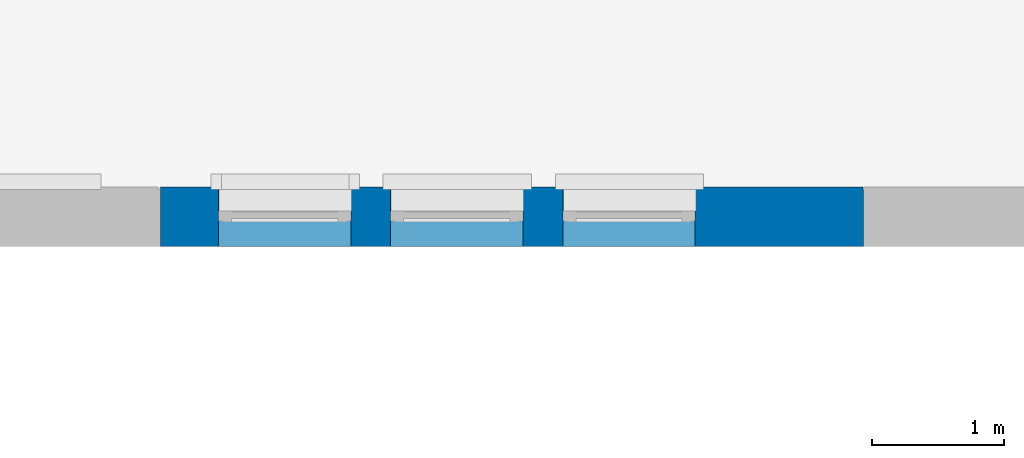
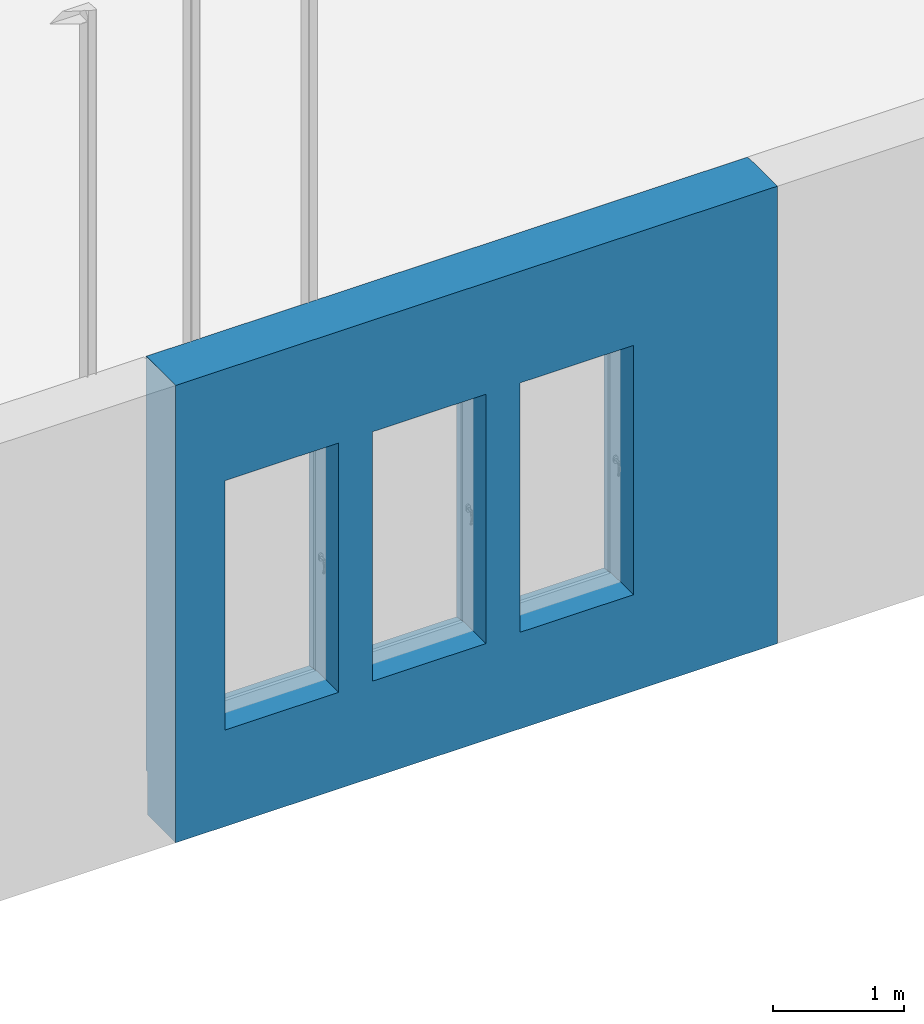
# One storey, part 32 of 77: 1 wall, 6 openings.
"""IFC2X3 building model written with IfcOpenShell, lengths in millimetres."""

import ifcopenshell
import ifcopenshell.guid

model = None  # the IFC model being written
_history = None  # IfcOwnerHistory: only IFC2X3 demands one
_inside = {}  # id of a spatial element -> (the spatial element, [elements in it])
_under = {}  # id of a project, library or spatial element -> (it, [spatial elements below it])
_declared = {}  # id of a project -> (the project, [libraries it declares])
_typed = {}  # id of a type object -> (the type object, [elements of that type])
_made_of = {}  # id of a material, layer set ... -> (it, [elements and type objects made of it])


def new_model(schema):
    """Start an empty IFC model of exactly this schema.

    Asked for "IFC4X3", IfcOpenShell would pick the latest addendum, in which some entities
    have other attributes; the version numbers below select the first issue.
    IFC2X3 requires an IfcOwnerHistory on every rooted entity: one is made here for all.
    """
    global model, _history
    if schema == "IFC4X3":
        model = ifcopenshell.file(schema_version=(4, 3, 0, 0))
    else:
        model = ifcopenshell.file(schema=schema)
    _inside.clear()
    _under.clear()
    _declared.clear()
    _typed.clear()
    _made_of.clear()
    _history = None
    if model.schema == "IFC2X3":
        org = make("IfcOrganization", Name="unknown")
        user = make(
            "IfcPersonAndOrganization",
            ThePerson=make("IfcPerson", FamilyName="unknown"),
            TheOrganization=org,
        )
        app = make(
            "IfcApplication",
            ApplicationDeveloper=org,
            Version="unknown",
            ApplicationFullName="unknown",
            ApplicationIdentifier="unknown",
        )
        _history = make(
            "IfcOwnerHistory",
            OwningUser=user,
            OwningApplication=app,
            ChangeAction="ADDED",
            CreationDate=0,
        )
    return model


def make(cls, **values):
    """One entity of the class cls with the attributes given. An attribute that is None is left unset."""
    return model.create_entity(
        cls, **{name: value for name, value in values.items() if value is not None}
    )


def entity(cls, *values):
    """Any entity or typed value of the class cls, its attributes in the order of the schema. None: left unset."""
    e = model.create_entity(cls)
    for i, value in enumerate(values):
        if value is not None:
            e[i] = value
    return e


def rooted(cls, **values):
    """An entity with a GlobalId (a new one), such as an element, a storey or a relation."""
    return make(cls, GlobalId=ifcopenshell.guid.new(), OwnerHistory=_history, **values)


def si_unit(unit_type, name, prefix=None):
    """IfcSIUnit, for example si_unit("LENGTHUNIT", "METRE", prefix="MILLI")."""
    return make("IfcSIUnit", UnitType=unit_type, Prefix=prefix, Name=name)


def converted_unit(unit_type, name, factor, base, dimensions=None, offset=None):
    """IfcConversionBasedUnit, such as the inch: factor (a typed value) times the base unit."""
    return make(
        "IfcConversionBasedUnit"
        if offset is None
        else "IfcConversionBasedUnitWithOffset",
        ConversionOffset=offset,
        Dimensions=None
        if dimensions is None
        else entity("IfcDimensionalExponents", *dimensions),
        UnitType=unit_type,
        Name=name,
        ConversionFactor=make(
            "IfcMeasureWithUnit", ValueComponent=factor, UnitComponent=base
        ),
    )


def derived_unit(unit_type, elements):
    """IfcDerivedUnit: a product of units, each with its exponent."""
    return make(
        "IfcDerivedUnit",
        Elements=[
            make("IfcDerivedUnitElement", Unit=unit, Exponent=power)
            for unit, power in elements
        ],
        UnitType=unit_type,
    )


def assignment(units):
    """IfcUnitAssignment: the units of a project."""
    return None if units is None else make("IfcUnitAssignment", Units=units)


def point(xyz):
    """IfcCartesianPoint."""
    return None if xyz is None else make("IfcCartesianPoint", Coordinates=xyz)


def direction(xyz):
    """IfcDirection."""
    return None if xyz is None else make("IfcDirection", DirectionRatios=xyz)


def frame(location, z_axis=None, x_axis=None):
    """IfcAxis2Placement3D, a coordinate frame: its origin and axes. An axis left out is left unset."""
    return make(
        "IfcAxis2Placement3D",
        Location=point(location),
        Axis=direction(z_axis),
        RefDirection=direction(x_axis),
    )


def frame_2d(location, x_axis=None):
    """IfcAxis2Placement2D, a coordinate frame in the plane: its origin and x axis."""
    return make(
        "IfcAxis2Placement2D", Location=point(location), RefDirection=direction(x_axis)
    )


def origin():
    """The frame at (0, 0, 0) with its axes left unset."""
    return frame((0.0, 0.0, 0.0))


def place(relative_to, where):
    """IfcLocalPlacement: puts the frame where relative to a parent placement (None: the world)."""
    return make(
        "IfcLocalPlacement", PlacementRelTo=relative_to, RelativePlacement=where
    )


def context(
    kind, dimensions, precision=None, world=None, true_north=None, identifier=None
):
    """IfcGeometricRepresentationContext, for example the 3D "Model" context."""
    return make(
        "IfcGeometricRepresentationContext",
        ContextIdentifier=identifier,
        ContextType=kind,
        CoordinateSpaceDimension=dimensions,
        Precision=precision,
        WorldCoordinateSystem=world,
        TrueNorth=true_north,
    )


def subcontext(parent, identifier, kind, view, scale=None):
    """IfcGeometricRepresentationSubContext, for example "Body" below "Model"."""
    return make(
        "IfcGeometricRepresentationSubContext",
        ContextIdentifier=identifier,
        ContextType=kind,
        ParentContext=parent,
        TargetScale=scale,
        TargetView=view,
    )


def project(units=None, contexts=None):
    """IfcProject with its units and contexts."""
    return rooted(
        "IfcProject",
        Name="project",
        RepresentationContexts=contexts,
        UnitsInContext=assignment(units),
    )


def spatial(cls, under=None, at=None, **own):
    """A site, building, storey or space (cls), placed at a placement, below another one or the project."""
    s = rooted(cls, ObjectPlacement=at, **own)
    if under is not None:
        _under.setdefault(under.id(), (under, []))[1].append(s)
    return s


def profile(cls, at=None, kind="AREA", **sizes):
    """A parametric profile (cls). Its sizes go by their IFC names, for example OverallWidth=200.0."""
    return make(cls, ProfileType=kind, Position=at, **sizes)


def rectangle(**sizes):
    """IfcRectangleProfileDef."""
    return profile("IfcRectangleProfileDef", **sizes)


def extrude(swept, where, along, depth):
    """IfcExtrudedAreaSolid: the profile swept, set in the frame where, extruded along a direction by depth."""
    return make(
        "IfcExtrudedAreaSolid",
        SweptArea=swept,
        Position=where,
        ExtrudedDirection=direction(along),
        Depth=depth,
    )


def faces_of(points, faces, orient=None, outer=None):
    """IfcFace entities. A face is a list of loops; a loop is a list of indices into points, from 0.

    orient and outer hold one flag for each loop. By default every Orientation is true, the
    first loop of a face is its IfcFaceOuterBound and the others are IfcFaceBound.
    """
    made = []
    for i, loops in enumerate(faces):
        bounds = []
        for j, loop in enumerate(loops):
            is_outer = j == 0 if outer is None else outer[i][j]
            bounds.append(
                make(
                    "IfcFaceOuterBound" if is_outer else "IfcFaceBound",
                    Bound=make("IfcPolyLoop", Polygon=[points[k] for k in loop]),
                    Orientation=True if orient is None else orient[i][j],
                )
            )
        made.append(make("IfcFace", Bounds=bounds))
    return made


def faceted_brep(points, faces, orient=None, outer=None, voids=None):
    """IfcFacetedBrep: a solid bounded by flat faces; with voids (closed shells), ...WithVoids."""
    shared = [point(p) for p in points]
    hull = make("IfcClosedShell", CfsFaces=faces_of(shared, faces, orient, outer))
    if voids is None:
        return make("IfcFacetedBrep", Outer=hull)
    return make(
        "IfcFacetedBrepWithVoids",
        Outer=hull,
        Voids=[
            make(cls, CfsFaces=faces_of(shared, fs, o, b)) for cls, fs, o, b in voids
        ],
    )


def shape(context_of_items, identifier, shape_type, items):
    """IfcShapeRepresentation: the items that make up one representation, for example the "Body"."""
    return make(
        "IfcShapeRepresentation",
        ContextOfItems=context_of_items,
        RepresentationIdentifier=identifier,
        RepresentationType=shape_type,
        Items=items,
    )


def material(Name=None, Category=None):
    """IfcMaterial."""
    return make("IfcMaterial", Name=Name, Category=Category)


def layer(
    of_material, thickness, ventilated=None, Name=None, Category=None, Priority=None
):
    """IfcMaterialLayer: one layer of a wall or slab, of a material (None: an air gap)."""
    return make(
        "IfcMaterialLayer",
        Material=of_material,
        LayerThickness=thickness,
        IsVentilated=ventilated,
        Name=Name,
        Category=Category,
        Priority=Priority,
    )


def layer_set(layers, Name=None):
    """IfcMaterialLayerSet."""
    return make("IfcMaterialLayerSet", MaterialLayers=layers, LayerSetName=Name)


def layer_usage(for_layer_set, set_direction, sense, offset, extent=None):
    """IfcMaterialLayerSetUsage: how a layer set lies in its element."""
    return make(
        "IfcMaterialLayerSetUsage",
        ForLayerSet=for_layer_set,
        LayerSetDirection=set_direction,
        DirectionSense=sense,
        OffsetFromReferenceLine=offset,
        ReferenceExtent=extent,
    )


def made_of(thing, what):
    """Note that an element or type object is made of a material, layer set ...; save() writes the relation."""
    if what is not None:
        _made_of.setdefault(what.id(), (what, []))[1].append(thing)
    return thing


def type_object(cls, material=None, **own):
    """A type object (cls), such as IfcWallType, which elements share."""
    return made_of(rooted(cls, **own), material)


def element(
    cls,
    number,
    at=None,
    inside=None,
    cuts=None,
    type_object=None,
    material=None,
    context=None,
    identifier="Body",
    shape_type=None,
    held_by="IfcProductDefinitionShape",
    body=None,
    shapes=None,
    **own,
):
    """One element of the class cls, such as IfcWall. Its Tag is "e" and its number.

    at: its placement. inside: the storey or other place that contains it. cuts: it is an
    opening in that element (IfcRelVoidsElement). A single representation is given by context,
    identifier, shape_type and body (its items); several are given by shapes. held_by: the class
    of the entity that holds the representations. save() writes the other relations.
    """
    e = rooted(cls, Tag="e%d" % number, ObjectPlacement=at, **own)
    if body is not None:
        shapes = [shape(context, identifier, shape_type, body)]
    if shapes is not None:
        e.Representation = make(held_by, Representations=shapes)
    if inside is not None:
        _inside.setdefault(inside.id(), (inside, []))[1].append(e)
    if cuts is not None:
        rooted(
            "IfcRelVoidsElement", RelatingBuildingElement=cuts, RelatedOpeningElement=e
        )
    if type_object is not None:
        _typed.setdefault(type_object.id(), (type_object, []))[1].append(e)
    return made_of(e, material)


def aggregate(whole, parts):
    """IfcRelAggregates: a whole, such as a stair, and the parts it consists of."""
    return rooted("IfcRelAggregates", RelatingObject=whole, RelatedObjects=parts)


def save(model, path):
    """Write the relations noted so far, then the file.

    IfcRelAggregates (storeys below a building ...), IfcRelContainedInSpatialStructure (elements
    in a storey), IfcRelDefinesByType, IfcRelAssociatesMaterial and IfcRelDeclares: one each for
    every whole, place, type object, material and project.
    """
    for whole, parts in _under.values():
        aggregate(whole, parts)
    for where, things in _inside.values():
        rooted(
            "IfcRelContainedInSpatialStructure",
            RelatedElements=things,
            RelatingStructure=where,
        )
    for kind, things in _typed.values():
        rooted("IfcRelDefinesByType", RelatedObjects=things, RelatingType=kind)
    for what, things in _made_of.values():
        rooted("IfcRelAssociatesMaterial", RelatedObjects=things, RelatingMaterial=what)
    for by, libraries in _declared.values():
        rooted("IfcRelDeclares", RelatingContext=by, RelatedDefinitions=libraries)
    model.write(path)


model = new_model("IFC2X3")

# Units and contexts
model_context = context("Model", 3, precision=0.01, world=origin(), true_north=direction((6.12303176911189e-17, 1.0)))
body_context = subcontext(model_context, "Body", "Model", "MODEL_VIEW")
ifc_project = project(units=[si_unit("LENGTHUNIT", "METRE", prefix="MILLI"), si_unit("AREAUNIT", "SQUARE_METRE"), si_unit("VOLUMEUNIT", "CUBIC_METRE"), converted_unit("PLANEANGLEUNIT", "DEGREE", entity("IfcRatioMeasure", 0.0174532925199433), si_unit("PLANEANGLEUNIT", "RADIAN"), dimensions=[0, 0, 0, 0, 0, 0, 0]), si_unit("MASSUNIT", "GRAM", prefix="KILO"), derived_unit("MASSDENSITYUNIT", [(si_unit("MASSUNIT", "GRAM", prefix="KILO"), 1), (si_unit("LENGTHUNIT", "METRE"), -3)]), si_unit("TIMEUNIT", "SECOND"), si_unit("FREQUENCYUNIT", "HERTZ"), si_unit("THERMODYNAMICTEMPERATUREUNIT", "DEGREE_CELSIUS"), derived_unit("THERMALTRANSMITTANCEUNIT", [(si_unit("MASSUNIT", "GRAM", prefix="KILO"), 1), (si_unit("THERMODYNAMICTEMPERATUREUNIT", "KELVIN"), -1), (si_unit("TIMEUNIT", "SECOND"), -3)]), derived_unit("VOLUMETRICFLOWRATEUNIT", [(si_unit("LENGTHUNIT", "METRE"), 3), (si_unit("TIMEUNIT", "SECOND"), -1)]), si_unit("ELECTRICCURRENTUNIT", "AMPERE"), si_unit("ELECTRICVOLTAGEUNIT", "VOLT"), si_unit("POWERUNIT", "WATT"), si_unit("FORCEUNIT", "NEWTON", prefix="KILO"), si_unit("ILLUMINANCEUNIT", "LUX"), si_unit("LUMINOUSFLUXUNIT", "LUMEN"), si_unit("LUMINOUSINTENSITYUNIT", "CANDELA"), derived_unit("USERDEFINED", [(si_unit("MASSUNIT", "GRAM", prefix="KILO"), -1), (si_unit("LENGTHUNIT", "METRE"), -2), (si_unit("TIMEUNIT", "SECOND"), 3), (si_unit("LUMINOUSFLUXUNIT", "LUMEN"), 1)]), derived_unit("LINEARVELOCITYUNIT", [(si_unit("LENGTHUNIT", "METRE"), 1), (si_unit("TIMEUNIT", "SECOND"), -1)]), si_unit("PRESSUREUNIT", "PASCAL"), derived_unit("USERDEFINED", [(si_unit("LENGTHUNIT", "METRE"), -2), (si_unit("MASSUNIT", "GRAM", prefix="KILO"), 1), (si_unit("TIMEUNIT", "SECOND"), -2)])], contexts=[model_context])

# Site, building, storey
site_placement = place(None, origin())
site = spatial("IfcSite", under=ifc_project, at=site_placement, Name="Default", CompositionType="ELEMENT")
building_placement = place(site_placement, origin())
building = spatial("IfcBuilding", under=site, at=building_placement, CompositionType="ELEMENT")
storey_placement = place(building_placement, origin())
storey = spatial("IfcBuildingStorey", under=building, at=storey_placement, Name="1. KORRUS", CompositionType="ELEMENT", Elevation=0.0)

# Wall, openings
ifc_material_1 = material(Name="RECKLI 1 173 THUR by Polantis 2016-toon1")
ifc_layer_1 = layer(ifc_material_1, 100.0)
ifc_material_2 = material(Name="Soojusisolatsioon EPS")
ifc_layer_2 = layer(ifc_material_2, 200.0)
ifc_material_3 = material(Name="r/b")
ifc_layer_3 = layer(ifc_material_3, 150.0)
ifc_layer_set = layer_set([ifc_layer_1, ifc_layer_2, ifc_layer_3], Name="Basic Wall:VS-1_toon-d")
ifc_layer_usage = layer_usage(ifc_layer_set, "AXIS2", "NEGATIVE", 225.0)
wall_type = type_object("IfcWallType", Name="Basic Wall:VS-1_toon-d", PredefinedType="STANDARD", material=ifc_layer_set)
wall_placement = place(storey_placement, frame((28663.2161487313, 21725.0517807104, -400.0)))
wall = element("IfcWallStandardCase", 1, at=wall_placement, inside=storey, type_object=wall_type, material=ifc_layer_usage, Name="Basic Wall:VS-1_toon-d", ObjectType="Basic Wall:VS-1_toon-d", context=body_context, shape_type="SweptSolid", body=[
    extrude(rectangle(XDim=5306.88742148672, YDim=450.000000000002, at=frame_2d((2653.44371074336, -1.27897692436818e-13), x_axis=(-1.0, 0.0))), origin(), (0.0, 0.0, 1.0), 4265.0),
])
opening_1_placement = place(wall_placement, origin())
element("IfcOpeningElement", 2, at=opening_1_placement, cuts=wall, Name="Basic Wall:VS-1_toon-d", ObjectType="Recess", context=body_context, shape_type="SweptSolid", body=[
    extrude(rectangle(XDim=4265.0, YDim=16.0000000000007, at=frame_2d((0.0, 2.16626716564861e-12), x_axis=(1.0, 0.0))), frame((5309.78385126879, 205.0, 2132.5), z_axis=(0.0, 1.0, 0.0), x_axis=(0.0, 0.0, 1.0)), (0.0, 0.0, 1.0), 19.9999999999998),
    extrude(rectangle(XDim=4835.0, YDim=16.0000000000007, at=frame_2d((2.27373675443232e-13, 2.16626716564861e-12), x_axis=(1.0, 0.0))), frame((5309.78385126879, 205.0, 6682.5), z_axis=(0.0, 1.0, 0.0), x_axis=(0.0, 0.0, 1.0)), (0.0, 0.0, 1.0), 19.9999999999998),
])
opening_2_placement = place(wall_placement, origin())
element("IfcOpeningElement", 3, at=opening_2_placement, cuts=wall, Name="Basic Wall:VS-1_toon-d", ObjectType="Opening", context=body_context, shape_type="Brep", body=[
    faceted_brep([(-29093.2161487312, 6304.94821928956, 400.0), (-29093.2161487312, 6304.94821928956, 0.0), (-29113.2161487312, 6324.94821928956, 0.0), (-29113.2161487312, 6324.94821928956, 400.0), (-29093.2161487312, 1564.94821928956, 400.0), (-29113.2161487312, 1564.94821928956, 400.0), (-29113.2161487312, 1564.94821928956, 0.0), (-29093.2161487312, 1564.94821928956, 0.0)], [[[0, 1, 2, 3]], [[4, 5, 6, 7]], [[1, 0, 4, 7]], [[2, 1, 7, 6]], [[3, 2, 6, 5]], [[0, 3, 5, 4]]]),
    faceted_brep([(-29093.2161487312, 6304.94821928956, 400.0), (-29113.2161487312, 6324.94821928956, 400.0), (-29113.2161487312, 6324.94821928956, 0.0), (-29093.2161487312, 6304.94821928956, 0.0), (-24753.2161487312, 6304.94821928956, 400.0), (-24753.2161487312, 6304.94821928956, 0.0), (-24753.2161487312, 6324.94821928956, 0.0), (-24753.2161487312, 6324.94821928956, 400.0)], [[[0, 1, 2, 3]], [[4, 5, 6, 7]], [[1, 0, 4, 7]], [[2, 1, 7, 6]], [[3, 2, 6, 5]], [[0, 3, 5, 4]]]),
    faceted_brep([(-19033.2161487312, 6304.94821928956, 400.0), (-19013.2161487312, 6324.94821928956, 400.0), (-19013.2161487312, 6324.94821928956, 0.0), (-19033.2161487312, 6304.94821928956, 0.0), (-19033.2161487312, 205.0, 400.0), (-19033.2161487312, 205.0, 0.0), (-19013.2161487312, 225.0, 0.0), (-19013.2161487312, 225.0, 400.0)], [[[0, 1, 2, 3]], [[4, 5, 6, 7]], [[1, 0, 4, 7]], [[2, 1, 7, 6]], [[3, 2, 6, 5]], [[0, 3, 5, 4]]]),
    faceted_brep([(-14313.2161487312, 205.0, 400.0), (-14313.2161487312, 225.0, 400.0), (-14313.2161487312, 225.0, 0.0), (-14313.2161487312, 205.0, 0.0), (-13783.216148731, 205.0, 400.0), (-13783.216148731, 205.0, 0.0), (-13783.216148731, 225.0, 0.0), (-13783.216148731, 225.0, 400.0)], [[[0, 1, 2, 3]], [[4, 5, 6, 7]], [[1, 0, 4, 7]], [[2, 1, 7, 6]], [[3, 2, 6, 5]], [[0, 3, 5, 4]]]),
    faceted_brep([(11266.7838512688, 205.0, 400.0), (11286.7838512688, 225.0, 400.0), (11286.7838512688, 225.0, 0.0), (11266.7838512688, 205.0, 0.0), (11266.7838512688, -5935.05178071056, 400.0), (11266.7838512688, -5935.05178071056, 0.0), (11286.7838512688, -5935.05178071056, 0.0), (11286.7838512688, -5935.05178071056, 400.0)], [[[0, 1, 2, 3]], [[4, 5, 6, 7]], [[1, 0, 4, 7]], [[2, 1, 7, 6]], [[3, 2, 6, 5]], [[0, 3, 5, 4]]]),
    faceted_brep([(11266.7838512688, -22155.0517807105, 400.0), (11286.7838512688, -22175.0517807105, 400.0), (11286.7838512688, -22175.0517807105, 0.0), (11266.7838512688, -22155.0517807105, 0.0), (6136.78385126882, -22155.0517807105, 400.0), (6136.78385126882, -22155.0517807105, 0.0), (6136.78385126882, -22175.0517807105, 0.0), (6136.78385126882, -22175.0517807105, 400.0)], [[[0, 1, 2, 3]], [[4, 5, 6, 7]], [[1, 0, 4, 7]], [[2, 1, 7, 6]], [[3, 2, 6, 5]], [[0, 3, 5, 4]]]),
    faceted_brep([(-17263.2161487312, -22155.0517807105, 400.0), (-17263.2161487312, -22175.0517807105, 400.0), (-17263.2161487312, -22175.0517807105, 0.0), (-17263.2161487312, -22155.0517807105, 0.0), (-21048.2161487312, -22155.0517807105, 400.0), (-21048.2161487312, -22155.0517807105, 0.0), (-21048.2161487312, -22175.0517807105, 0.0), (-21048.2161487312, -22175.0517807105, 400.0)], [[[0, 1, 2, 3]], [[4, 5, 6, 7]], [[1, 0, 4, 7]], [[2, 1, 7, 6]], [[3, 2, 6, 5]], [[0, 3, 5, 4]]]),
    faceted_brep([(11266.7838512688, -8965.05178071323, 400.0), (11286.7838512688, -8965.05178071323, 400.0), (11286.7838512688, -8965.05178071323, 0.0), (11266.7838512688, -8965.05178071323, 0.0), (11266.7838512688, -13081.7217807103, 400.0), (11266.7838512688, -13081.7217807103, 0.0), (11286.7838512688, -13081.7217807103, 0.0), (11286.7838512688, -13081.7217807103, 400.0)], [[[0, 1, 2, 3]], [[4, 5, 6, 7]], [[1, 0, 4, 7]], [[2, 1, 7, 6]], [[3, 2, 6, 5]], [[0, 3, 5, 4]]]),
    faceted_brep([(2536.78385126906, -22155.0517807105, 400.0), (2536.78385126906, -22175.0517807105, 400.0), (2536.78385126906, -22175.0517807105, 0.0), (2536.78385126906, -22155.0517807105, 0.0), (136.78385126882, -22155.0517807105, 400.0), (136.78385126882, -22155.0517807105, 0.0), (136.783851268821, -22175.0517807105, 0.0), (136.783851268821, -22175.0517807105, 400.0)], [[[0, 1, 2, 3]], [[4, 5, 6, 7]], [[1, 0, 4, 7]], [[2, 1, 7, 6]], [[3, 2, 6, 5]], [[0, 3, 5, 4]]]),
    faceted_brep([(-24873.1853249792, -22155.0517807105, 400.0), (-24873.1853249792, -22175.0517807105, 400.0), (-24873.1853249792, -22175.0517807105, 0.0), (-24873.1853249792, -22155.0517807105, 0.0), (-27358.1853249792, -22155.0517807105, 400.0), (-27358.1853249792, -22155.0517807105, 0.0), (-27358.1853249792, -22175.0517807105, 0.0), (-27358.1853249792, -22175.0517807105, 400.0)], [[[0, 1, 2, 3]], [[4, 5, 6, 7]], [[1, 0, 4, 7]], [[2, 1, 7, 6]], [[3, 2, 6, 5]], [[0, 3, 5, 4]]]),
    faceted_brep([(-12663.216148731, -22155.0517807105, 400.0), (-12663.216148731, -22175.0517807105, 400.0), (-12663.216148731, -22175.0517807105, 0.0), (-12663.216148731, -22155.0517807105, 0.0), (-13663.2161487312, -22155.0517807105, 400.0), (-13663.2161487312, -22155.0517807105, 0.0), (-13663.2161487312, -22175.0517807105, 0.0), (-13663.2161487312, -22175.0517807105, 400.0)], [[[0, 1, 2, 3]], [[4, 5, 6, 7]], [[1, 0, 4, 7]], [[2, 1, 7, 6]], [[3, 2, 6, 5]], [[0, 3, 5, 4]]]),
    faceted_brep([(-8063.18448574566, -22155.0517807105, 400.0), (-8063.18448574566, -22175.0517807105, 400.0), (-8063.18448574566, -22175.0517807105, 0.0), (-8063.18448574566, -22155.0517807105, 0.0), (-9063.21614873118, -22155.0517807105, 400.0), (-9063.21614873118, -22155.0517807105, 0.0), (-9063.21614873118, -22175.0517807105, 0.0), (-9063.21614873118, -22175.0517807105, 400.0)], [[[0, 1, 2, 3]], [[4, 5, 6, 7]], [[1, 0, 4, 7]], [[2, 1, 7, 6]], [[3, 2, 6, 5]], [[0, 3, 5, 4]]]),
    faceted_brep([(-3463.18448574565, -22155.0517807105, 400.0), (-3463.18448574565, -22175.0517807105, 400.0), (-3463.18448574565, -22175.0517807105, 0.0), (-3463.18448574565, -22155.0517807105, 0.0), (-4463.21614873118, -22155.0517807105, 400.0), (-4463.21614873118, -22155.0517807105, 0.0), (-4463.21614873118, -22175.0517807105, 0.0), (-4463.21614873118, -22175.0517807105, 400.0)], [[[0, 1, 2, 3]], [[4, 5, 6, 7]], [[1, 0, 4, 7]], [[2, 1, 7, 6]], [[3, 2, 6, 5]], [[0, 3, 5, 4]]]),
    faceted_brep([(11266.7838512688, -17310.0517807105, 400.0), (11286.7838512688, -17310.0517807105, 400.0), (11286.7838512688, -17310.0517807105, 0.0), (11266.7838512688, -17310.0517807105, 0.0), (11266.7838512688, -22155.0517807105, 400.0), (11266.7838512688, -22155.0517807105, 0.0), (11286.7838512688, -22175.0517807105, 0.0), (11286.7838512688, -22175.0517807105, 400.0)], [[[0, 1, 2, 3]], [[4, 5, 6, 7]], [[1, 0, 4, 7]], [[2, 1, 7, 6]], [[3, 2, 6, 5]], [[0, 3, 5, 4]]]),
    faceted_brep([(11266.7838512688, -13081.7217807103, 400.0), (11286.7838512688, -13081.7217807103, 400.0), (11286.7838512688, -13081.7217807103, 0.0), (11266.7838512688, -13081.7217807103, 0.0), (11266.7838512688, -17310.0517807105, 400.0), (11266.7838512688, -17310.0517807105, 0.0), (11286.7838512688, -17310.0517807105, 0.0), (11286.7838512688, -17310.0517807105, 400.0)], [[[0, 1, 2, 3]], [[4, 5, 6, 7]], [[1, 0, 4, 7]], [[2, 1, 7, 6]], [[3, 2, 6, 5]], [[0, 3, 5, 4]]]),
    faceted_brep([(11266.7838512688, -5935.05178071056, 400.0), (11286.7838512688, -5935.05178071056, 400.0), (11286.7838512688, -5935.05178071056, 0.0), (11266.7838512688, -5935.05178071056, 0.0), (11266.7838512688, -8965.05178071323, 400.0), (11266.7838512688, -8965.05178071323, 0.0), (11286.7838512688, -8965.05178071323, 0.0), (11286.7838512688, -8965.05178071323, 400.0)], [[[0, 1, 2, 3]], [[4, 5, 6, 7]], [[1, 0, 4, 7]], [[2, 1, 7, 6]], [[3, 2, 6, 5]], [[0, 3, 5, 4]]]),
    faceted_brep([(5306.88742148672, 205.0, 400.0), (5306.88742148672, 225.0, 400.0), (5306.88742148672, 225.0, 0.0), (5306.88742148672, 205.0, 0.0), (11266.7838512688, 205.0, 400.0), (11266.7838512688, 205.0, 0.0), (11286.7838512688, 225.0, 0.0), (11286.7838512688, 225.0, 400.0)], [[[0, 1, 2, 3]], [[4, 5, 6, 7]], [[1, 0, 4, 7]], [[2, 1, 7, 6]], [[3, 2, 6, 5]], [[0, 3, 5, 4]]]),
    faceted_brep([(0.0, 205.0, 400.0), (0.0, 225.0, 400.0), (0.0, 225.0, 0.0), (0.0, 205.0, 0.0), (5306.88742148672, 205.0, 400.0), (5306.88742148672, 205.0, 0.0), (5306.88742148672, 225.0, 0.0), (5306.88742148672, 225.0, 400.0)], [[[0, 1, 2, 3]], [[4, 5, 6, 7]], [[1, 0, 4, 7]], [[2, 1, 7, 6]], [[3, 2, 6, 5]], [[0, 3, 5, 4]]]),
    faceted_brep([(-21048.2161487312, -22155.0517807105, 400.0), (-21048.2161487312, -22175.0517807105, 400.0), (-21048.2161487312, -22175.0517807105, 0.0), (-21048.2161487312, -22155.0517807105, 0.0), (-24873.1853249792, -22155.0517807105, 400.0), (-24873.1853249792, -22155.0517807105, 0.0), (-24873.1853249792, -22175.0517807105, 0.0), (-24873.1853249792, -22175.0517807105, 400.0)], [[[0, 1, 2, 3]], [[4, 5, 6, 7]], [[1, 0, 4, 7]], [[2, 1, 7, 6]], [[3, 2, 6, 5]], [[0, 3, 5, 4]]]),
    faceted_brep([(-6578.21614873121, 205.0, 400.0), (-6578.21614873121, 225.0, 400.0), (-6578.21614873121, 225.0, 0.0), (-6578.21614873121, 205.0, 0.0), (0.0, 205.0, 400.0), (0.0, 205.0, 0.0), (0.0, 225.0, 0.0), (0.0, 225.0, 400.0)], [[[0, 1, 2, 3]], [[4, 5, 6, 7]], [[1, 0, 4, 7]], [[2, 1, 7, 6]], [[3, 2, 6, 5]], [[0, 3, 5, 4]]]),
    faceted_brep([(-10409.8632577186, 205.0, 400.0), (-10409.8632577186, 225.0, 400.0), (-10409.8632577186, 225.0, 0.0), (-10409.8632577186, 205.0, 0.0), (-6578.21614873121, 205.0, 400.0), (-6578.21614873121, 205.0, 0.0), (-6578.21614873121, 225.0, 0.0), (-6578.21614873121, 225.0, 400.0)], [[[0, 1, 2, 3]], [[4, 5, 6, 7]], [[1, 0, 4, 7]], [[2, 1, 7, 6]], [[3, 2, 6, 5]], [[0, 3, 5, 4]]]),
    faceted_brep([(-13783.216148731, 205.0, 400.0), (-13783.216148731, 225.0, 400.0), (-13783.216148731, 225.0, 0.0), (-13783.216148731, 205.0, 0.0), (-10409.8632577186, 205.0, 400.0), (-10409.8632577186, 205.0, 0.0), (-10409.8632577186, 225.0, 0.0), (-10409.8632577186, 225.0, 400.0)], [[[0, 1, 2, 3]], [[4, 5, 6, 7]], [[1, 0, 4, 7]], [[2, 1, 7, 6]], [[3, 2, 6, 5]], [[0, 3, 5, 4]]]),
    faceted_brep([(-24753.2161487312, 6304.94821928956, 400.0), (-24753.2161487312, 6324.94821928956, 400.0), (-24753.2161487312, 6324.94821928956, 0.0), (-24753.2161487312, 6304.94821928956, 0.0), (-19033.2161487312, 6304.94821928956, 400.0), (-19033.2161487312, 6304.94821928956, 0.0), (-19013.2161487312, 6324.94821928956, 0.0), (-19013.2161487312, 6324.94821928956, 400.0)], [[[0, 1, 2, 3]], [[4, 5, 6, 7]], [[1, 0, 4, 7]], [[2, 1, 7, 6]], [[3, 2, 6, 5]], [[0, 3, 5, 4]]]),
    faceted_brep([(-29093.2161487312, 1564.94821928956, 400.0), (-29093.2161487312, 1564.94821928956, 0.0), (-29113.2161487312, 1564.94821928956, 0.0), (-29113.2161487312, 1564.94821928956, 400.0), (-29093.2161487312, -3985.05108347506, 400.0), (-29113.2161487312, -3985.05108347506, 400.0), (-29113.2161487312, -3985.05108347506, 0.0), (-29093.2161487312, -3985.05108347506, 0.0)], [[[0, 1, 2, 3]], [[4, 5, 6, 7]], [[1, 0, 4, 7]], [[2, 1, 7, 6]], [[3, 2, 6, 5]], [[0, 3, 5, 4]]]),
    faceted_brep([(-29093.2161487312, -3985.05108347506, 400.0), (-29093.2161487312, -3985.05108347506, 0.0), (-29113.2161487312, -3985.05108347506, 0.0), (-29113.2161487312, -3985.05108347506, 400.0), (-29093.2161487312, -8925.05178071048, 400.0), (-29113.2161487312, -8925.05178071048, 400.0), (-29113.2161487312, -8925.05178071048, 0.0), (-29093.2161487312, -8925.05178071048, 0.0)], [[[0, 1, 2, 3]], [[4, 5, 6, 7]], [[1, 0, 4, 7]], [[2, 1, 7, 6]], [[3, 2, 6, 5]], [[0, 3, 5, 4]]]),
    faceted_brep([(-19033.2161487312, 205.0, 400.0), (-19013.2161487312, 225.0, 400.0), (-19013.2161487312, 225.0, 0.0), (-19033.2161487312, 205.0, 0.0), (-17913.2161487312, 205.0, 400.0), (-17913.2161487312, 205.0, 0.0), (-17913.2161487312, 225.0, 0.0), (-17913.2161487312, 225.0, 400.0)], [[[0, 1, 2, 3]], [[4, 5, 6, 7]], [[1, 0, 4, 7]], [[2, 1, 7, 6]], [[3, 2, 6, 5]], [[0, 3, 5, 4]]]),
])
opening_3_placement = place(wall_placement, frame((-29113.2161487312, -22175.0517807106, 4269.0)))
element("IfcOpeningElement", 4, at=opening_3_placement, cuts=wall, Name="Basic Wall:VS-1_toon-d", ObjectType="Opening", context=body_context, shape_type="Brep", body=[
    faceted_brep([(11850.0, 20.0, 16.0), (11850.0, 0.0, 16.0), (11850.0, 0.0, 0.0), (11850.0, 20.0, 0.0), (4260.0, 20.0, 16.0), (4260.0, 20.0, 0.0), (4260.0, 0.0, 0.0), (4260.0, 0.0, 16.0)], [[[0, 1, 2, 3]], [[4, 5, 6, 7]], [[1, 0, 4, 7]], [[2, 1, 7, 6]], [[3, 2, 6, 5]], [[0, 3, 5, 4]]]),
    faceted_brep([(20.0, 28480.0, 16.0), (20.0, 28480.0, 0.0), (0.0, 28500.0, 0.0), (0.0, 28500.0, 16.0), (20.0, 23740.0, 16.0), (0.0, 23740.0, 16.0), (0.0, 23740.0, 0.0), (20.0, 23740.0, 0.0)], [[[0, 1, 2, 3]], [[4, 5, 6, 7]], [[1, 0, 4, 7]], [[2, 1, 7, 6]], [[3, 2, 6, 5]], [[0, 3, 5, 4]]]),
    faceted_brep([(10080.0, 22380.0517807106, 16.0), (10100.0, 22400.0517807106, 16.0), (10100.0, 22400.0517807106, 0.0), (10080.0, 22380.0517807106, 0.0), (15330.3475962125, 22380.0517807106, 16.0), (15330.3475962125, 22380.0517807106, 0.0), (15330.3475962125, 22400.0517807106, 0.0), (15330.3475962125, 22400.0517807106, 16.0)], [[[0, 1, 2, 3]], [[4, 5, 6, 7]], [[1, 0, 4, 7]], [[2, 1, 7, 6]], [[3, 2, 6, 5]], [[0, 3, 5, 4]]]),
    faceted_brep([(20.0, 28480.0, 16.0), (0.0, 28500.0, 16.0), (0.0, 28500.0, 0.0), (20.0, 28480.0, 0.0), (4360.0, 28480.0, 16.0), (4360.0, 28480.0, 0.0), (4360.0, 28500.0, 0.0), (4360.0, 28500.0, 16.0)], [[[0, 1, 2, 3]], [[4, 5, 6, 7]], [[1, 0, 4, 7]], [[2, 1, 7, 6]], [[3, 2, 6, 5]], [[0, 3, 5, 4]]]),
    faceted_brep([(40380.0, 20.0, 16.0), (40400.0, 0.0, 16.0), (40400.0, 0.0, 0.0), (40380.0, 20.0, 0.0), (35250.0, 20.0, 16.0), (35250.0, 20.0, 0.0), (35250.0, 0.0, 0.0), (35250.0, 0.0, 16.0)], [[[0, 1, 2, 3]], [[4, 5, 6, 7]], [[1, 0, 4, 7]], [[2, 1, 7, 6]], [[3, 2, 6, 5]], [[0, 3, 5, 4]]]),
    faceted_brep([(34420.1035702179, 22380.0517807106, 16.0), (34420.1035702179, 22400.0517807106, 16.0), (34420.1035702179, 22400.0517807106, 0.0), (34420.1035702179, 22380.0517807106, 0.0), (40380.0, 22380.0517807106, 16.0), (40380.0, 22380.0517807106, 0.0), (40400.0, 22400.0517807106, 0.0), (40400.0, 22400.0517807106, 16.0)], [[[0, 1, 2, 3]], [[4, 5, 6, 7]], [[1, 0, 4, 7]], [[2, 1, 7, 6]], [[3, 2, 6, 5]], [[0, 3, 5, 4]]]),
    faceted_brep([(29113.2161487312, 22380.0517807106, 16.0), (29113.2161487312, 22400.0517807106, 16.0), (29113.2161487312, 22400.0517807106, 0.0), (29113.2161487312, 22380.0517807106, 0.0), (34420.1035702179, 22380.0517807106, 16.0), (34420.1035702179, 22380.0517807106, 0.0), (34420.1035702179, 22400.0517807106, 0.0), (34420.1035702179, 22400.0517807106, 16.0)], [[[0, 1, 2, 3]], [[4, 5, 6, 7]], [[1, 0, 4, 7]], [[2, 1, 7, 6]], [[3, 2, 6, 5]], [[0, 3, 5, 4]]]),
    faceted_brep([(10080.0, 28480.0, 16.0), (10100.0, 28500.0, 16.0), (10100.0, 28500.0, 0.0), (10080.0, 28480.0, 0.0), (10080.0, 22380.0517807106, 16.0), (10080.0, 22380.0517807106, 0.0), (10100.0, 22400.0517807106, 0.0), (10100.0, 22400.0517807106, 16.0)], [[[0, 1, 2, 3]], [[4, 5, 6, 7]], [[1, 0, 4, 7]], [[2, 1, 7, 6]], [[3, 2, 6, 5]], [[0, 3, 5, 4]]]),
    faceted_brep([(4260.0, 20.0, 16.0), (4260.0, 0.0, 16.0), (4260.0, 0.0, 0.0), (4260.0, 20.0, 0.0), (0.0, 20.0, 16.0), (0.0, 20.0, 0.0), (0.0, 0.0, 0.0), (0.0, 0.0, 16.0)], [[[0, 1, 2, 3]], [[4, 5, 6, 7]], [[1, 0, 4, 7]], [[2, 1, 7, 6]], [[3, 2, 6, 5]], [[0, 3, 5, 4]]]),
    faceted_brep([(40380.0, 4865.0, 16.0), (40400.0, 4865.0, 16.0), (40400.0, 4865.0, 0.0), (40380.0, 4865.0, 0.0), (40380.0, 20.0, 16.0), (40380.0, 20.0, 0.0), (40400.0, 0.0, 0.0), (40400.0, 0.0, 16.0)], [[[0, 1, 2, 3]], [[4, 5, 6, 7]], [[1, 0, 4, 7]], [[2, 1, 7, 6]], [[3, 2, 6, 5]], [[0, 3, 5, 4]]]),
    faceted_brep([(40380.0, 9093.33000000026, 16.0), (40400.0, 9093.33000000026, 16.0), (40400.0, 9093.33000000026, 0.0), (40380.0, 9093.33000000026, 0.0), (40380.0, 4865.0, 16.0), (40380.0, 4865.0, 0.0), (40400.0, 4865.0, 0.0), (40400.0, 4865.0, 16.0)], [[[0, 1, 2, 3]], [[4, 5, 6, 7]], [[1, 0, 4, 7]], [[2, 1, 7, 6]], [[3, 2, 6, 5]], [[0, 3, 5, 4]]]),
    faceted_brep([(40380.0, 13210.0, 16.0), (40400.0, 13210.0, 16.0), (40400.0, 13210.0, 0.0), (40380.0, 13210.0, 0.0), (40380.0, 9093.33000000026, 16.0), (40380.0, 9093.33000000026, 0.0), (40400.0, 9093.33000000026, 0.0), (40400.0, 9093.33000000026, 16.0)], [[[0, 1, 2, 3]], [[4, 5, 6, 7]], [[1, 0, 4, 7]], [[2, 1, 7, 6]], [[3, 2, 6, 5]], [[0, 3, 5, 4]]]),
    faceted_brep([(40380.0, 16240.0, 16.0), (40400.0, 16240.0, 16.0), (40400.0, 16240.0, 0.0), (40380.0, 16240.0, 0.0), (40380.0, 13210.0, 16.0), (40380.0, 13210.0, 0.0), (40400.0, 13210.0, 0.0), (40400.0, 13210.0, 16.0)], [[[0, 1, 2, 3]], [[4, 5, 6, 7]], [[1, 0, 4, 7]], [[2, 1, 7, 6]], [[3, 2, 6, 5]], [[0, 3, 5, 4]]]),
    faceted_brep([(40380.0, 22380.0517807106, 16.0), (40400.0, 22400.0517807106, 16.0), (40400.0, 22400.0517807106, 0.0), (40380.0, 22380.0517807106, 0.0), (40380.0, 16240.0, 16.0), (40380.0, 16240.0, 0.0), (40400.0, 16240.0, 0.0), (40400.0, 16240.0, 16.0)], [[[0, 1, 2, 3]], [[4, 5, 6, 7]], [[1, 0, 4, 7]], [[2, 1, 7, 6]], [[3, 2, 6, 5]], [[0, 3, 5, 4]]]),
    faceted_brep([(22535.0, 22380.0517807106, 16.0), (22535.0, 22400.0517807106, 16.0), (22535.0, 22400.0517807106, 0.0), (22535.0, 22380.0517807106, 0.0), (29113.2161487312, 22380.0517807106, 16.0), (29113.2161487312, 22380.0517807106, 0.0), (29113.2161487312, 22400.0517807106, 0.0), (29113.2161487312, 22400.0517807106, 16.0)], [[[0, 1, 2, 3]], [[4, 5, 6, 7]], [[1, 0, 4, 7]], [[2, 1, 7, 6]], [[3, 2, 6, 5]], [[0, 3, 5, 4]]]),
    faceted_brep([(18703.3528910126, 22380.0517807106, 16.0), (18703.3528910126, 22400.0517807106, 16.0), (18703.3528910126, 22400.0517807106, 0.0), (18703.3528910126, 22380.0517807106, 0.0), (22535.0, 22380.0517807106, 16.0), (22535.0, 22380.0517807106, 0.0), (22535.0, 22400.0517807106, 0.0), (22535.0, 22400.0517807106, 16.0)], [[[0, 1, 2, 3]], [[4, 5, 6, 7]], [[1, 0, 4, 7]], [[2, 1, 7, 6]], [[3, 2, 6, 5]], [[0, 3, 5, 4]]]),
    faceted_brep([(15330.3475962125, 22380.0517807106, 16.0), (15330.3475962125, 22400.0517807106, 16.0), (15330.3475962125, 22400.0517807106, 0.0), (15330.3475962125, 22380.0517807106, 0.0), (18703.3528910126, 22380.0517807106, 16.0), (18703.3528910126, 22380.0517807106, 0.0), (18703.3528910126, 22400.0517807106, 0.0), (18703.3528910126, 22400.0517807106, 16.0)], [[[0, 1, 2, 3]], [[4, 5, 6, 7]], [[1, 0, 4, 7]], [[2, 1, 7, 6]], [[3, 2, 6, 5]], [[0, 3, 5, 4]]]),
    faceted_brep([(4360.0, 28480.0, 16.0), (4360.0, 28500.0, 16.0), (4360.0, 28500.0, 0.0), (4360.0, 28480.0, 0.0), (10080.0, 28480.0, 16.0), (10080.0, 28480.0, 0.0), (10100.0, 28500.0, 0.0), (10100.0, 28500.0, 16.0)], [[[0, 1, 2, 3]], [[4, 5, 6, 7]], [[1, 0, 4, 7]], [[2, 1, 7, 6]], [[3, 2, 6, 5]], [[0, 3, 5, 4]]]),
    faceted_brep([(20.0, 23740.0, 16.0), (20.0, 23740.0, 0.0), (0.0, 23740.0, 0.0), (0.0, 23740.0, 16.0), (20.0, 16890.0006972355, 16.0), (0.0, 16890.0006972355, 16.0), (0.0, 16890.0006972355, 0.0), (20.0, 16890.0006972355, 0.0)], [[[0, 1, 2, 3]], [[4, 5, 6, 7]], [[1, 0, 4, 7]], [[2, 1, 7, 6]], [[3, 2, 6, 5]], [[0, 3, 5, 4]]]),
    faceted_brep([(20.0, 16890.0006972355, 16.0), (20.0, 16890.0006972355, 0.0), (0.0, 16890.0006972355, 0.0), (0.0, 16890.0006972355, 16.0), (20.0, 13460.0, 16.0), (0.0, 13460.0, 16.0), (0.0, 13460.0, 0.0), (20.0, 13460.0, 0.0)], [[[0, 1, 2, 3]], [[4, 5, 6, 7]], [[1, 0, 4, 7]], [[2, 1, 7, 6]], [[3, 2, 6, 5]], [[0, 3, 5, 4]]]),
])
opening_4_placement = place(wall_placement, frame((1736.78385126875, -225.0, 878.057009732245)))
element("IfcOpeningElement", 5, at=opening_4_placement, cuts=wall, Name="Basic Wall:VS-1_toon-d", ObjectType="Opening", context=body_context, shape_type="Brep", body=[
    faceted_brep([(0.0, 0.0, 2346.94299026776), (0.0, 0.0, 21.9429902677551), (1000.0, 0.0, 21.9429902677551), (1000.0, 0.0, 2346.94299026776), (1000.0, 450.0, 2721.94299026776), (1000.0, 450.0, 0.0), (0.0, 450.0, 0.0), (0.0, 450.0, 2721.94299026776), (0.0, 250.0, 2346.94299026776), (0.0, 250.0, 2721.94299026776), (0.0, 325.555118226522, 21.9429902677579), (1000.0, 325.555118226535, 21.9429902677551), (1000.0, 250.0, 2721.94299026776), (1000.0, 250.0, 2346.94299026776)], [[[0, 1, 2, 3]], [[4, 5, 6, 7]], [[0, 8, 9, 7, 6, 10, 1]], [[1, 10, 11, 2]], [[2, 11, 5, 4, 12, 13, 3]], [[3, 13, 8, 0]], [[9, 8, 13, 12]], [[12, 4, 7, 9]], [[6, 5, 11, 10]]]),
])
opening_5_placement = place(wall_placement, frame((3036.78385126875, -225.0, 878.057009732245)))
element("IfcOpeningElement", 6, at=opening_5_placement, cuts=wall, Name="Basic Wall:VS-1_toon-d", ObjectType="Opening", context=body_context, shape_type="Brep", body=[
    faceted_brep([(0.0, 0.0, 2346.94299026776), (0.0, 0.0, 21.9429902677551), (1000.0, 0.0, 21.9429902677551), (1000.0, 0.0, 2346.94299026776), (1000.0, 450.0, 2721.94299026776), (1000.0, 450.0, 0.0), (0.0, 450.0, 0.0), (0.0, 450.0, 2721.94299026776), (0.0, 250.0, 2346.94299026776), (0.0, 250.0, 2721.94299026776), (0.0, 325.555118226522, 21.9429902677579), (1000.0, 325.555118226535, 21.9429902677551), (1000.0, 250.0, 2721.94299026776), (1000.0, 250.0, 2346.94299026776)], [[[0, 1, 2, 3]], [[4, 5, 6, 7]], [[0, 8, 9, 7, 6, 10, 1]], [[1, 10, 11, 2]], [[2, 11, 5, 4, 12, 13, 3]], [[3, 13, 8, 0]], [[9, 8, 13, 12]], [[12, 4, 7, 9]], [[6, 5, 11, 10]]]),
])
opening_6_placement = place(wall_placement, frame((436.783851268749, -225.0, 878.057009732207)))
element("IfcOpeningElement", 7, at=opening_6_placement, cuts=wall, Name="Basic Wall:VS-1_toon-d", ObjectType="Opening", context=body_context, shape_type="Brep", body=[
    faceted_brep([(0.0, 0.0, 2346.94299026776), (0.0, 0.0, 21.9429902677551), (1000.0, 0.0, 21.9429902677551), (1000.0, 0.0, 2346.94299026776), (1000.0, 450.0, 2721.94299026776), (1000.0, 450.0, 0.0), (0.0, 450.0, 0.0), (0.0, 450.0, 2721.94299026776), (0.0, 250.0, 2346.94299026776), (0.0, 250.0, 2721.94299026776), (0.0, 325.555118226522, 21.9429902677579), (1000.0, 325.555118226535, 21.9429902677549), (1000.0, 250.0, 2721.94299026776), (1000.0, 250.0, 2346.94299026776)], [[[0, 1, 2, 3]], [[4, 5, 6, 7]], [[0, 8, 9, 7, 6, 10, 1]], [[1, 10, 11, 2]], [[2, 11, 5, 4, 12, 13, 3]], [[3, 13, 8, 0]], [[9, 8, 13, 12]], [[12, 4, 7, 9]], [[6, 5, 11, 10]]]),
])

save(model, "model.ifc")
